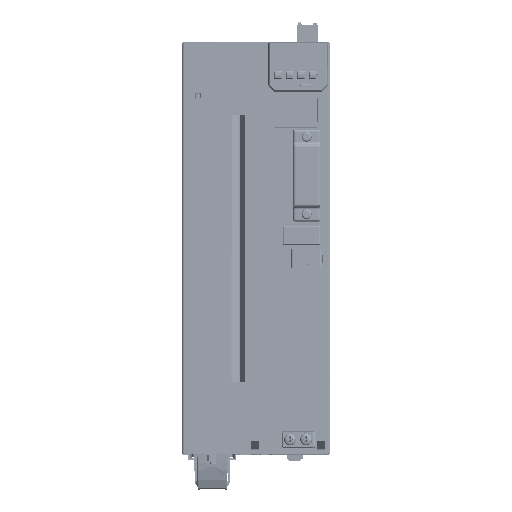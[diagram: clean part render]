
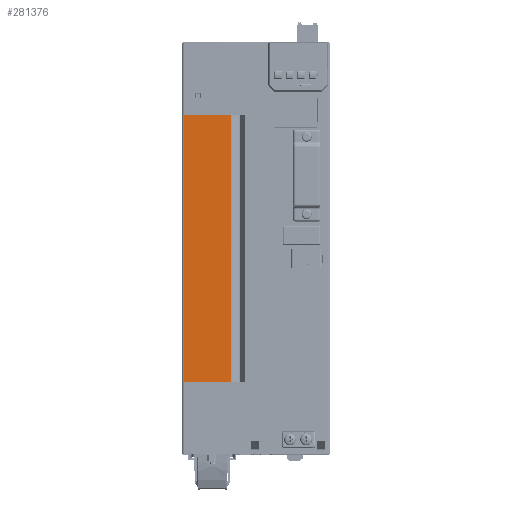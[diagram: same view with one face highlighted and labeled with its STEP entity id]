
A CAD part, top view. The second image highlights one B-rep face of the part: STEP entity #281376.
In plain terms, the highlighted planar face has unit normal (0, 0, 1).
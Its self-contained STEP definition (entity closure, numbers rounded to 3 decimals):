
#51362=CARTESIAN_POINT('',(-40.531,80.8,0.));
#57499=DIRECTION('',(0.,-1.,0.));
#57500=VECTOR('',#57499,161.6);
#57501=CARTESIAN_POINT('',(-69.396,80.8,0.));
#57502=LINE('',#57501,#57500);
#57503=CARTESIAN_POINT('',(-69.396,-80.8,0.));
#57508=DIRECTION('',(1.,0.,0.));
#57509=VECTOR('',#57508,28.865);
#57510=CARTESIAN_POINT('',(-69.396,80.8,0.));
#57511=LINE('',#57510,#57509);
#57512=DIRECTION('',(-1.,0.,0.));
#57513=VECTOR('',#57512,28.865);
#57514=CARTESIAN_POINT('',(-40.531,-80.8,0.));
#57515=LINE('',#57514,#57513);
#57520=DIRECTION('',(0.,1.,0.));
#57521=VECTOR('',#57520,161.6);
#57522=CARTESIAN_POINT('',(-40.531,-80.8,0.));
#57523=LINE('',#57522,#57521);
#161972=VERTEX_POINT('',#51362);
#161973=CARTESIAN_POINT('',(-69.396,80.8,0.));
#161974=VERTEX_POINT('',#161973);
#170801=VERTEX_POINT('',#57503);
#170802=CARTESIAN_POINT('',(-40.531,-80.8,0.));
#170803=VERTEX_POINT('',#170802);
#281364=CARTESIAN_POINT('',(-54.964,0.,0.));
#281365=DIRECTION('',(0.,0.,1.));
#281366=DIRECTION('',(1.,0.,0.));
#281367=AXIS2_PLACEMENT_3D('',#281364,#281365,#281366);
#281368=PLANE('',#281367);
#281369=ORIENTED_EDGE('',*,*,#281351,.F.);
#281370=ORIENTED_EDGE('',*,*,#272117,.T.);
#281372=ORIENTED_EDGE('',*,*,#281371,.F.);
#281373=ORIENTED_EDGE('',*,*,#278825,.T.);
#281374=EDGE_LOOP('',(#281369,#281370,#281372,#281373));
#281375=FACE_OUTER_BOUND('',#281374,.F.);
#272117=EDGE_CURVE('',#161974,#161972,#57511,.T.);
#278825=EDGE_CURVE('',#170803,#170801,#57515,.T.);
#281351=EDGE_CURVE('',#161974,#170801,#57502,.T.);
#281371=EDGE_CURVE('',#170803,#161972,#57523,.T.);
#281376=ADVANCED_FACE('',(#281375),#281368,.T.);
